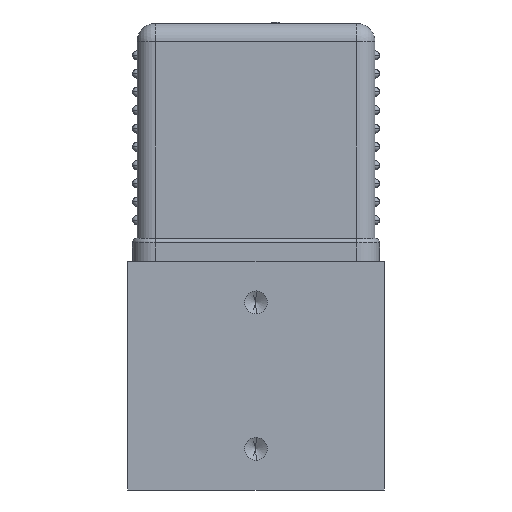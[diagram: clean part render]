
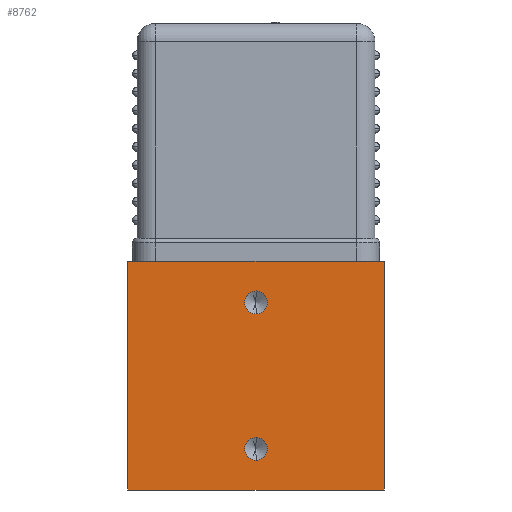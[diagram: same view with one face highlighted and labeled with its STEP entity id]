
A CAD part, front view. The second image highlights one B-rep face of the part: STEP entity #8762.
In plain terms, the highlighted planar face has unit normal (0, -1, 0).
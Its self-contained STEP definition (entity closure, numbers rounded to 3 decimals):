
#234 = DIRECTION ( 'NONE',  ( 0., -1., 0. ) ) ;
#514 = CARTESIAN_POINT ( 'NONE',  ( -14., -4.5, 12.5 ) ) ;
#654 = ORIENTED_EDGE ( 'NONE', *, *, #15556, .F. ) ;
#1166 = VERTEX_POINT ( 'NONE', #11911 ) ;
#1418 = VERTEX_POINT ( 'NONE', #13146 ) ;
#1648 = EDGE_CURVE ( 'NONE', #2631, #13464, #7503, .T. ) ;
#1890 = DIRECTION ( 'NONE',  ( 0., 0., -1. ) ) ;
#1958 = ORIENTED_EDGE ( 'NONE', *, *, #8960, .T. ) ;
#2337 = FACE_OUTER_BOUND ( 'NONE', #15845, .T. ) ;
#2353 = VECTOR ( 'NONE', #13643, 1000. ) ;
#2480 = DIRECTION ( 'NONE',  ( 0., 0., -1. ) ) ;
#2563 = AXIS2_PLACEMENT_3D ( 'NONE', #14063, #7850, #2906 ) ;
#2568 = EDGE_CURVE ( 'NONE', #3220, #12929, #15471, .T. ) ;
#2612 = AXIS2_PLACEMENT_3D ( 'NONE', #6465, #234, #5232 ) ;
#2631 = VERTEX_POINT ( 'NONE', #6836 ) ;
#2676 = DIRECTION ( 'NONE',  ( 1., 0., 0. ) ) ;
#2906 = DIRECTION ( 'NONE',  ( 0., 0., -1. ) ) ;
#3126 = CARTESIAN_POINT ( 'NONE',  ( 14., -4.5, 12.5 ) ) ;
#3220 = VERTEX_POINT ( 'NONE', #514 ) ;
#3424 = ORIENTED_EDGE ( 'NONE', *, *, #14009, .F. ) ;
#4305 = CARTESIAN_POINT ( 'NONE',  ( -14., -4.5, 12.5 ) ) ;
#4455 = CIRCLE ( 'NONE', #14890, 1.25 ) ;
#4748 = VERTEX_POINT ( 'NONE', #3126 ) ;
#5129 = ORIENTED_EDGE ( 'NONE', *, *, #8030, .F. ) ;
#5232 = DIRECTION ( 'NONE',  ( 0., 0., -1. ) ) ;
#5346 = CARTESIAN_POINT ( 'NONE',  ( -14., -4.5, 12.5 ) ) ;
#6050 = VECTOR ( 'NONE', #2676, 1000. ) ;
#6280 = CARTESIAN_POINT ( 'NONE',  ( 0., -4.5, -8. ) ) ;
#6465 = CARTESIAN_POINT ( 'NONE',  ( 0., -4.5, 8. ) ) ;
#6836 = CARTESIAN_POINT ( 'NONE',  ( 0., -4.5, -9.25 ) ) ;
#7031 = ORIENTED_EDGE ( 'NONE', *, *, #2568, .T. ) ;
#7381 = ORIENTED_EDGE ( 'NONE', *, *, #9166, .F. ) ;
#7503 = CIRCLE ( 'NONE', #10917, 1.25 ) ;
#7576 = EDGE_CURVE ( 'NONE', #4748, #1166, #8902, .T. ) ;
#7850 = DIRECTION ( 'NONE',  ( 0., -1., 0. ) ) ;
#8030 = EDGE_CURVE ( 'NONE', #15418, #1418, #4455, .T. ) ;
#8376 = CIRCLE ( 'NONE', #2612, 1.25 ) ;
#8406 = LINE ( 'NONE', #5346, #6050 ) ;
#8749 = CARTESIAN_POINT ( 'NONE',  ( -14., -4.5, -12.5 ) ) ;
#8762 = ADVANCED_FACE ( 'NONE', ( #12210, #11620, #2337 ), #11716, .F. ) ;
#8902 = LINE ( 'NONE', #9929, #2353 ) ;
#8960 = EDGE_CURVE ( 'NONE', #12929, #1166, #15981, .T. ) ;
#9003 = DIRECTION ( 'NONE',  ( 0., -1., 0. ) ) ;
#9116 = CARTESIAN_POINT ( 'NONE',  ( 0., -4.5, 8. ) ) ;
#9166 = EDGE_CURVE ( 'NONE', #1418, #15418, #8376, .T. ) ;
#9793 = CIRCLE ( 'NONE', #2563, 1.25 ) ;
#9838 = CARTESIAN_POINT ( 'NONE',  ( 0., -4.5, 9.25 ) ) ;
#9924 = VECTOR ( 'NONE', #14750, 1000. ) ;
#9929 = CARTESIAN_POINT ( 'NONE',  ( 14., -4.5, 12.5 ) ) ;
#10756 = EDGE_LOOP ( 'NONE', ( #7381, #5129 ) ) ;
#10917 = AXIS2_PLACEMENT_3D ( 'NONE', #6280, #11249, #2480 ) ;
#11181 = EDGE_LOOP ( 'NONE', ( #11714, #3424 ) ) ;
#11249 = DIRECTION ( 'NONE',  ( 0., -1., 0. ) ) ;
#11528 = DIRECTION ( 'NONE',  ( 0., 0., -1. ) ) ;
#11620 = FACE_BOUND ( 'NONE', #11181, .T. ) ;
#11714 = ORIENTED_EDGE ( 'NONE', *, *, #1648, .F. ) ;
#11716 = PLANE ( 'NONE',  #13709 ) ;
#11911 = CARTESIAN_POINT ( 'NONE',  ( 14., -4.5, -12.5 ) ) ;
#12023 = DIRECTION ( 'NONE',  ( 0., 0., 1. ) ) ;
#12210 = FACE_BOUND ( 'NONE', #10756, .T. ) ;
#12489 = CARTESIAN_POINT ( 'NONE',  ( 0., -4.5, -6.75 ) ) ;
#12929 = VERTEX_POINT ( 'NONE', #8749 ) ;
#12975 = ORIENTED_EDGE ( 'NONE', *, *, #7576, .F. ) ;
#13134 = CARTESIAN_POINT ( 'NONE',  ( -14., -4.5, 12.5 ) ) ;
#13146 = CARTESIAN_POINT ( 'NONE',  ( 0., -4.5, 6.75 ) ) ;
#13464 = VERTEX_POINT ( 'NONE', #12489 ) ;
#13643 = DIRECTION ( 'NONE',  ( 0., 0., -1. ) ) ;
#13709 = AXIS2_PLACEMENT_3D ( 'NONE', #4305, #15527, #12023 ) ;
#13710 = VECTOR ( 'NONE', #1890, 1000. ) ;
#14009 = EDGE_CURVE ( 'NONE', #13464, #2631, #9793, .T. ) ;
#14063 = CARTESIAN_POINT ( 'NONE',  ( 0., -4.5, -8. ) ) ;
#14702 = CARTESIAN_POINT ( 'NONE',  ( -14., -4.5, -12.5 ) ) ;
#14750 = DIRECTION ( 'NONE',  ( 1., 0., 0. ) ) ;
#14890 = AXIS2_PLACEMENT_3D ( 'NONE', #9116, #9003, #11528 ) ;
#15418 = VERTEX_POINT ( 'NONE', #9838 ) ;
#15471 = LINE ( 'NONE', #13134, #13710 ) ;
#15527 = DIRECTION ( 'NONE',  ( 0., 1., 0. ) ) ;
#15556 = EDGE_CURVE ( 'NONE', #3220, #4748, #8406, .T. ) ;
#15845 = EDGE_LOOP ( 'NONE', ( #1958, #12975, #654, #7031 ) ) ;
#15981 = LINE ( 'NONE', #14702, #9924 ) ;
